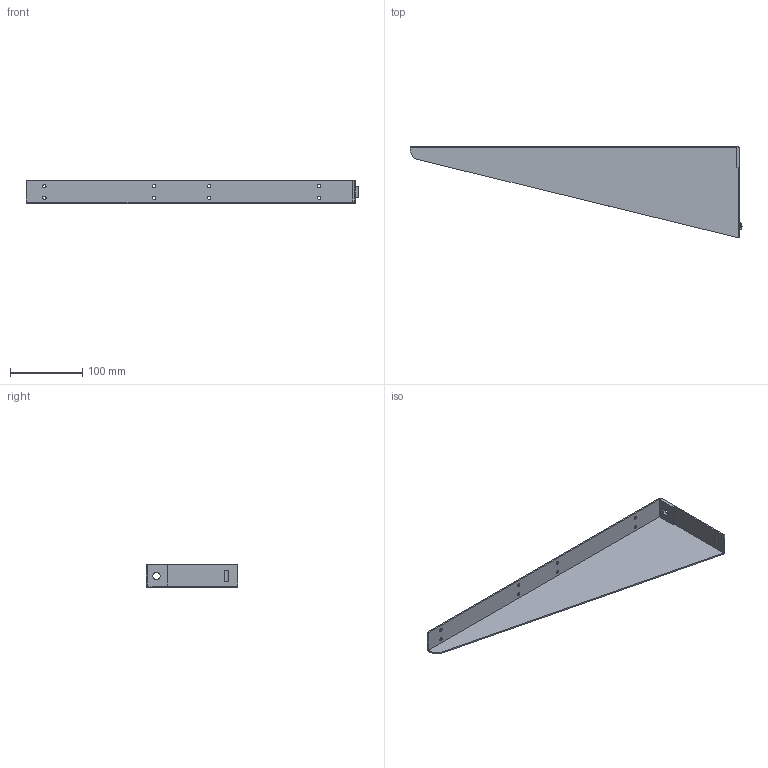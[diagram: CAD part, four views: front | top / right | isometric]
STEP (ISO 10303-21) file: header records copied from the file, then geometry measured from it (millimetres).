
FILE_DESCRIPTION(('TurboCAD Mac Pro'),'Build 980');
FILE_NAME('A2497L.stp',' ',(''),(''),'ACIS Interop','IMSI','TurboCAD Mac Pro BY IMSI, INCORPORATED');
FILE_SCHEMA(('automotive_design'));
Length unit declared in the file: inch
Products named in the file (1): 1
Bounding box: 460.37 x 127 x 31.75 mm (x, y, z)
Volume: 96411.5 mm3; surface area: 102394 mm2
Topology: 1 solids, 1 shells, 62 faces, 177 edges, 116 vertices
Faces by surface type: bspline 42, plane 20
Entity records: 2807 total; most frequent: CARTESIAN_POINT 910, ORIENTED_EDGE 354, EDGE_CURVE 177, DIRECTION 143, VERTEX_POINT 116, LINE 93, VECTOR 93, EDGE_LOOP 83
